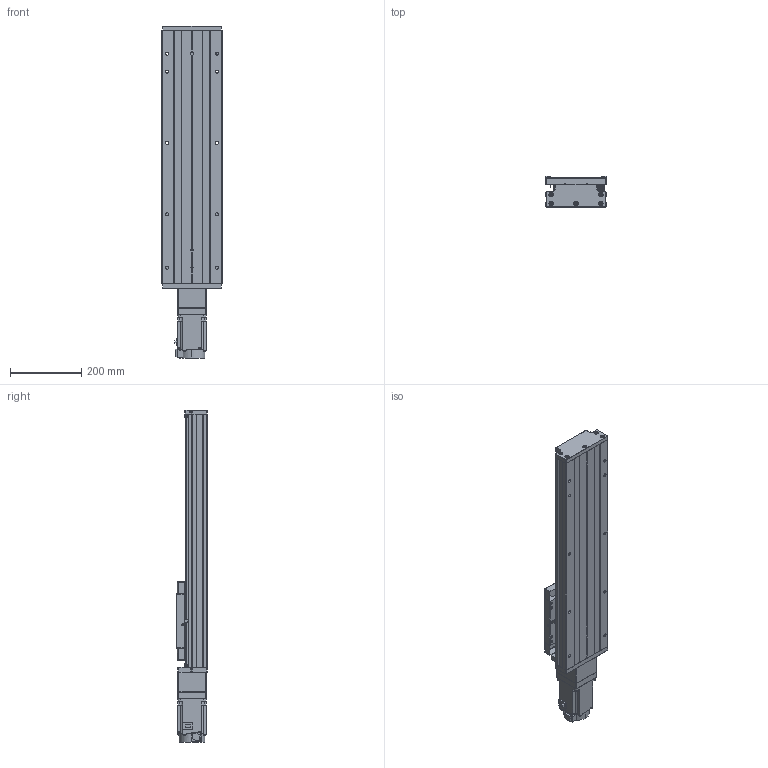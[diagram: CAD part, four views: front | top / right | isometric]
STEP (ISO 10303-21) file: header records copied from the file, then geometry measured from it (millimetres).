
FILE_DESCRIPTION (( 'STEP AP203' ), '1' );
FILE_NAME ('GTH17-450-BC-M75-C4.step', '2023-06-30T11:21:41', ( '微软用户' ), ( '微软中国' ), 'SwSTEP 2.0', 'SolidWorks 2020', '' );
FILE_SCHEMA (( 'CONFIG_CONTROL_DESIGN' ));
Length unit declared in the file: millimetre
Products named in the file (20): GTH17-004; GBT77-2000 M3×3; GTH17-013; GTH17-005; GBT 70.1-M6¡Á20_M6¡Á20; GTH17-027-1; GB1155-6X6; GTH17-031; HG-KN73J-S100; CTHA60-017; GBT 70.2-M3¡Á5_M3¡Á6; GTH17-001_450; GTH17-450-BC-M75-C4; EE_SX911P_R; す晦芛蹟隊 M3℅5; GTH17-002_GTH17-002; CTHA60-016; GBT 70.3-M3℅8; GBT 70.1-M3℅5; GTH17-006-2_M75
Assembly tree (57 placements, depth 2):
  GTH17-450-BC-M75-C4
    GTH17-001_450
    GTH17-002_GTH17-002
    GTH17-004
    GTH17-005
    GB1155-6X6  x2
    CTHA60-017  x3
    EE_SX911P_R  x3
    CTHA60-016  x2
    GBT 70.1-M3℅5  x6
    GBT77-2000 M3×3  x6
    GBT 70.1-M6¡Á20_M6¡Á20  x10
    GTH17-031
    GBT 70.2-M3¡Á5_M3¡Á6  x8
    す晦芛蹟隊 M3℅5  x6
    GBT 70.3-M3℅8  x2
    GTH17-006-2_M75
    GTH17-013
    GTH17-027-1
    HG-KN73J-S100
Bounding box: 171 x 87 x 931.2 mm (x, y, z)
Volume: 7066955.3 mm3; surface area: 957794.5 mm2
Topology: 60 solids, 60 shells, 2404 faces, 5749 edges, 3563 vertices
Faces by surface type: plane 1303, cylinder 654, cone 287, torus 120, sphere 20, bspline 20
Entity records: 44837 total; most frequent: CARTESIAN_POINT 10377, DIRECTION 6477, ORIENTED_EDGE 6414, EDGE_CURVE 3207, AXIS2_PLACEMENT_3D 2197, LINE 2083, VECTOR 2083, VERTEX_POINT 2031
